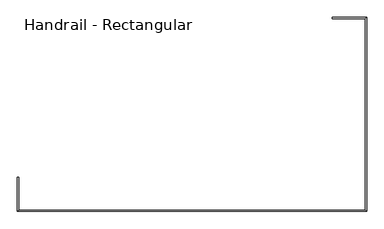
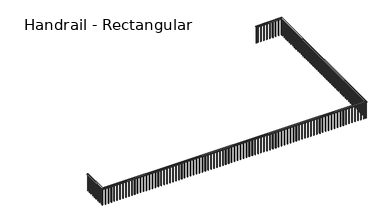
"""IFC4 building model written with IfcOpenShell, lengths in millimetres: railing geometry, Handrail - Rectangular."""

from ifc_helpers import new_model, si_unit, frame, origin, place, context, project, spatial, polyline, outline, extrude, faceted_brep, source, transform, mapped, element, save


def handrail_rectangular_a9532e81(model_context):
    return source(origin(), model_context, "Body", "SolidModel", [
        faceted_brep([(-11342.6589563, -34232.3683133, 3962.4), (-11342.6589563, -34232.3683133, 3911.6), (-11393.4589563, -34232.3683133, 3911.6), (-11393.4589563, -34232.3683133, 3962.4), (-11393.4589563, -35578.5683133, 3962.4), (-11342.6589563, -35527.7683133, 3962.4), (-11393.4589563, -35578.5683133, 3911.6), (-11342.6589563, -35527.7683133, 3911.6), (2322.5410437, -35578.5683133, 3962.4), (2271.7410437, -35527.7683133, 3962.4), (2322.5410437, -35578.5683133, 3911.6), (2271.7410437, -35527.7683133, 3911.6), (2322.5410437, -27958.5683133, 3962.4), (2271.7410437, -28009.3683133, 3962.4), (2322.5410437, -27958.5683133, 3911.6), (2271.7410437, -28009.3683133, 3911.6), (976.3410437, -28009.3683133, 3962.4), (976.3410437, -27958.5683133, 3962.4), (976.3410437, -27958.5683133, 3911.6), (976.3410437, -28009.3683133, 3911.6)], [[[0, 1, 2, 3]], [[0, 3, 4, 5]], [[3, 2, 6, 4]], [[2, 1, 7, 6]], [[1, 0, 5, 7]], [[5, 4, 8, 9]], [[4, 6, 10, 8]], [[6, 7, 11, 10]], [[7, 5, 9, 11]], [[9, 8, 12, 13]], [[8, 10, 14, 12]], [[10, 11, 15, 14]], [[11, 9, 13, 15]], [[16, 17, 18, 19]], [[13, 12, 17, 16]], [[12, 14, 18, 17]], [[14, 15, 19, 18]], [[15, 13, 16, 19]]]),
        extrude(outline(polyline([(1087.4660437, -27993.4933133), (1068.4160437, -27993.4933133), (1068.4160437, -27974.4433133), (1087.4660437, -27974.4433133), (1087.4660437, -27993.4933133)])), frame((0.0, 0.0, 3048.0), z_axis=(0.0, 0.0, 1.0), x_axis=(1.0, 0.0, 0.0)), (0.0, 0.0, 1.0), 863.6),
        extrude(outline(polyline([(1239.8660437, -27993.4933133), (1220.8160437, -27993.4933133), (1220.8160437, -27974.4433133), (1239.8660437, -27974.4433133), (1239.8660437, -27993.4933133)])), frame((0.0, 0.0, 3048.0), z_axis=(0.0, 0.0, 1.0), x_axis=(1.0, 0.0, 0.0)), (0.0, 0.0, 1.0), 863.6),
        extrude(outline(polyline([(1392.2660437, -27993.4933133), (1373.2160437, -27993.4933133), (1373.2160437, -27974.4433133), (1392.2660437, -27974.4433133), (1392.2660437, -27993.4933133)])), frame((0.0, 0.0, 3048.0), z_axis=(0.0, 0.0, 1.0), x_axis=(1.0, 0.0, 0.0)), (0.0, 0.0, 1.0), 863.6),
        extrude(outline(polyline([(1544.6660437, -27993.4933133), (1525.6160437, -27993.4933133), (1525.6160437, -27974.4433133), (1544.6660437, -27974.4433133), (1544.6660437, -27993.4933133)])), frame((0.0, 0.0, 3048.0), z_axis=(0.0, 0.0, 1.0), x_axis=(1.0, 0.0, 0.0)), (0.0, 0.0, 1.0), 863.6),
        extrude(outline(polyline([(1697.0660437, -27993.4933133), (1678.0160437, -27993.4933133), (1678.0160437, -27974.4433133), (1697.0660437, -27974.4433133), (1697.0660437, -27993.4933133)])), frame((0.0, 0.0, 3048.0), z_axis=(0.0, 0.0, 1.0), x_axis=(1.0, 0.0, 0.0)), (0.0, 0.0, 1.0), 863.6),
        extrude(outline(polyline([(1849.4660437, -27993.4933133), (1830.4160437, -27993.4933133), (1830.4160437, -27974.4433133), (1849.4660437, -27974.4433133), (1849.4660437, -27993.4933133)])), frame((0.0, 0.0, 3048.0), z_axis=(0.0, 0.0, 1.0), x_axis=(1.0, 0.0, 0.0)), (0.0, 0.0, 1.0), 863.6),
        extrude(outline(polyline([(2001.8660437, -27993.4933133), (1982.8160437, -27993.4933133), (1982.8160437, -27974.4433133), (2001.8660437, -27974.4433133), (2001.8660437, -27993.4933133)])), frame((0.0, 0.0, 3048.0), z_axis=(0.0, 0.0, 1.0), x_axis=(1.0, 0.0, 0.0)), (0.0, 0.0, 1.0), 863.6),
        extrude(outline(polyline([(2154.2660437, -27993.4933133), (2135.2160437, -27993.4933133), (2135.2160437, -27974.4433133), (2154.2660437, -27974.4433133), (2154.2660437, -27993.4933133)])), frame((0.0, 0.0, 3048.0), z_axis=(0.0, 0.0, 1.0), x_axis=(1.0, 0.0, 0.0)), (0.0, 0.0, 1.0), 863.6),
        extrude(outline(polyline([(2287.6160437, -28095.0933133), (2287.6160437, -28076.0433133), (2306.6660437, -28076.0433133), (2306.6660437, -28095.0933133), (2287.6160437, -28095.0933133)])), frame((0.0, 0.0, 3048.0), z_axis=(0.0, 0.0, 1.0), x_axis=(1.0, 0.0, 0.0)), (0.0, 0.0, 1.0), 863.6),
        extrude(outline(polyline([(2287.6160437, -28247.4933133), (2287.6160437, -28228.4433133), (2306.6660437, -28228.4433133), (2306.6660437, -28247.4933133), (2287.6160437, -28247.4933133)])), frame((0.0, 0.0, 3048.0), z_axis=(0.0, 0.0, 1.0), x_axis=(1.0, 0.0, 0.0)), (0.0, 0.0, 1.0), 863.6),
        extrude(outline(polyline([(2287.6160437, -28399.8933133), (2287.6160437, -28380.8433133), (2306.6660437, -28380.8433133), (2306.6660437, -28399.8933133), (2287.6160437, -28399.8933133)])), frame((0.0, 0.0, 3048.0), z_axis=(0.0, 0.0, 1.0), x_axis=(1.0, 0.0, 0.0)), (0.0, 0.0, 1.0), 863.6),
        extrude(outline(polyline([(2287.6160437, -28552.2933133), (2287.6160437, -28533.2433133), (2306.6660437, -28533.2433133), (2306.6660437, -28552.2933133), (2287.6160437, -28552.2933133)])), frame((0.0, 0.0, 3048.0), z_axis=(0.0, 0.0, 1.0), x_axis=(1.0, 0.0, 0.0)), (0.0, 0.0, 1.0), 863.6),
        extrude(outline(polyline([(2287.6160437, -28704.6933133), (2287.6160437, -28685.6433133), (2306.6660437, -28685.6433133), (2306.6660437, -28704.6933133), (2287.6160437, -28704.6933133)])), frame((0.0, 0.0, 3048.0), z_axis=(0.0, 0.0, 1.0), x_axis=(1.0, 0.0, 0.0)), (0.0, 0.0, 1.0), 863.6),
        extrude(outline(polyline([(2287.6160437, -28857.0933133), (2287.6160437, -28838.0433133), (2306.6660437, -28838.0433133), (2306.6660437, -28857.0933133), (2287.6160437, -28857.0933133)])), frame((0.0, 0.0, 3048.0), z_axis=(0.0, 0.0, 1.0), x_axis=(1.0, 0.0, 0.0)), (0.0, 0.0, 1.0), 863.6),
        extrude(outline(polyline([(2287.6160437, -29009.4933133), (2287.6160437, -28990.4433133), (2306.6660437, -28990.4433133), (2306.6660437, -29009.4933133), (2287.6160437, -29009.4933133)])), frame((0.0, 0.0, 3048.0), z_axis=(0.0, 0.0, 1.0), x_axis=(1.0, 0.0, 0.0)), (0.0, 0.0, 1.0), 863.6),
        extrude(outline(polyline([(2287.6160437, -29161.8933133), (2287.6160437, -29142.8433133), (2306.6660437, -29142.8433133), (2306.6660437, -29161.8933133), (2287.6160437, -29161.8933133)])), frame((0.0, 0.0, 3048.0), z_axis=(0.0, 0.0, 1.0), x_axis=(1.0, 0.0, 0.0)), (0.0, 0.0, 1.0), 863.6),
        extrude(outline(polyline([(2287.6160437, -29314.2933133), (2287.6160437, -29295.2433133), (2306.6660437, -29295.2433133), (2306.6660437, -29314.2933133), (2287.6160437, -29314.2933133)])), frame((0.0, 0.0, 3048.0), z_axis=(0.0, 0.0, 1.0), x_axis=(1.0, 0.0, 0.0)), (0.0, 0.0, 1.0), 863.6),
        extrude(outline(polyline([(2287.6160437, -29466.6933133), (2287.6160437, -29447.6433133), (2306.6660437, -29447.6433133), (2306.6660437, -29466.6933133), (2287.6160437, -29466.6933133)])), frame((0.0, 0.0, 3048.0), z_axis=(0.0, 0.0, 1.0), x_axis=(1.0, 0.0, 0.0)), (0.0, 0.0, 1.0), 863.6),
        extrude(outline(polyline([(2287.6160437, -29619.0933133), (2287.6160437, -29600.0433133), (2306.6660437, -29600.0433133), (2306.6660437, -29619.0933133), (2287.6160437, -29619.0933133)])), frame((0.0, 0.0, 3048.0), z_axis=(0.0, 0.0, 1.0), x_axis=(1.0, 0.0, 0.0)), (0.0, 0.0, 1.0), 863.6),
        extrude(outline(polyline([(2287.6160437, -29771.4933133), (2287.6160437, -29752.4433133), (2306.6660437, -29752.4433133), (2306.6660437, -29771.4933133), (2287.6160437, -29771.4933133)])), frame((0.0, 0.0, 3048.0), z_axis=(0.0, 0.0, 1.0), x_axis=(1.0, 0.0, 0.0)), (0.0, 0.0, 1.0), 863.6),
        extrude(outline(polyline([(2287.6160437, -29923.8933133), (2287.6160437, -29904.8433133), (2306.6660437, -29904.8433133), (2306.6660437, -29923.8933133), (2287.6160437, -29923.8933133)])), frame((0.0, 0.0, 3048.0), z_axis=(0.0, 0.0, 1.0), x_axis=(1.0, 0.0, 0.0)), (0.0, 0.0, 1.0), 863.6),
        extrude(outline(polyline([(2287.6160437, -30076.2933133), (2287.6160437, -30057.2433133), (2306.6660437, -30057.2433133), (2306.6660437, -30076.2933133), (2287.6160437, -30076.2933133)])), frame((0.0, 0.0, 3048.0), z_axis=(0.0, 0.0, 1.0), x_axis=(1.0, 0.0, 0.0)), (0.0, 0.0, 1.0), 863.6),
        extrude(outline(polyline([(2287.6160437, -30228.6933133), (2287.6160437, -30209.6433133), (2306.6660437, -30209.6433133), (2306.6660437, -30228.6933133), (2287.6160437, -30228.6933133)])), frame((0.0, 0.0, 3048.0), z_axis=(0.0, 0.0, 1.0), x_axis=(1.0, 0.0, 0.0)), (0.0, 0.0, 1.0), 863.6),
        extrude(outline(polyline([(2287.6160437, -30381.0933133), (2287.6160437, -30362.0433133), (2306.6660437, -30362.0433133), (2306.6660437, -30381.0933133), (2287.6160437, -30381.0933133)])), frame((0.0, 0.0, 3048.0), z_axis=(0.0, 0.0, 1.0), x_axis=(1.0, 0.0, 0.0)), (0.0, 0.0, 1.0), 863.6),
        extrude(outline(polyline([(2287.6160437, -30533.4933133), (2287.6160437, -30514.4433133), (2306.6660437, -30514.4433133), (2306.6660437, -30533.4933133), (2287.6160437, -30533.4933133)])), frame((0.0, 0.0, 3048.0), z_axis=(0.0, 0.0, 1.0), x_axis=(1.0, 0.0, 0.0)), (0.0, 0.0, 1.0), 863.6),
        extrude(outline(polyline([(2287.6160437, -30685.8933133), (2287.6160437, -30666.8433133), (2306.6660437, -30666.8433133), (2306.6660437, -30685.8933133), (2287.6160437, -30685.8933133)])), frame((0.0, 0.0, 3048.0), z_axis=(0.0, 0.0, 1.0), x_axis=(1.0, 0.0, 0.0)), (0.0, 0.0, 1.0), 863.6),
        extrude(outline(polyline([(2287.6160437, -30838.2933133), (2287.6160437, -30819.2433133), (2306.6660437, -30819.2433133), (2306.6660437, -30838.2933133), (2287.6160437, -30838.2933133)])), frame((0.0, 0.0, 3048.0), z_axis=(0.0, 0.0, 1.0), x_axis=(1.0, 0.0, 0.0)), (0.0, 0.0, 1.0), 863.6),
        extrude(outline(polyline([(2287.6160437, -30990.6933133), (2287.6160437, -30971.6433133), (2306.6660437, -30971.6433133), (2306.6660437, -30990.6933133), (2287.6160437, -30990.6933133)])), frame((0.0, 0.0, 3048.0), z_axis=(0.0, 0.0, 1.0), x_axis=(1.0, 0.0, 0.0)), (0.0, 0.0, 1.0), 863.6),
        extrude(outline(polyline([(2287.6160437, -31143.0933133), (2287.6160437, -31124.0433133), (2306.6660437, -31124.0433133), (2306.6660437, -31143.0933133), (2287.6160437, -31143.0933133)])), frame((0.0, 0.0, 3048.0), z_axis=(0.0, 0.0, 1.0), x_axis=(1.0, 0.0, 0.0)), (0.0, 0.0, 1.0), 863.6),
        extrude(outline(polyline([(2287.6160437, -31295.4933133), (2287.6160437, -31276.4433133), (2306.6660437, -31276.4433133), (2306.6660437, -31295.4933133), (2287.6160437, -31295.4933133)])), frame((0.0, 0.0, 3048.0), z_axis=(0.0, 0.0, 1.0), x_axis=(1.0, 0.0, 0.0)), (0.0, 0.0, 1.0), 863.6),
        extrude(outline(polyline([(2287.6160437, -31447.8933133), (2287.6160437, -31428.8433133), (2306.6660437, -31428.8433133), (2306.6660437, -31447.8933133), (2287.6160437, -31447.8933133)])), frame((0.0, 0.0, 3048.0), z_axis=(0.0, 0.0, 1.0), x_axis=(1.0, 0.0, 0.0)), (0.0, 0.0, 1.0), 863.6),
        extrude(outline(polyline([(2287.6160437, -31600.2933133), (2287.6160437, -31581.2433133), (2306.6660437, -31581.2433133), (2306.6660437, -31600.2933133), (2287.6160437, -31600.2933133)])), frame((0.0, 0.0, 3048.0), z_axis=(0.0, 0.0, 1.0), x_axis=(1.0, 0.0, 0.0)), (0.0, 0.0, 1.0), 863.6),
        extrude(outline(polyline([(2287.6160437, -31752.6933133), (2287.6160437, -31733.6433133), (2306.6660437, -31733.6433133), (2306.6660437, -31752.6933133), (2287.6160437, -31752.6933133)])), frame((0.0, 0.0, 3048.0), z_axis=(0.0, 0.0, 1.0), x_axis=(1.0, 0.0, 0.0)), (0.0, 0.0, 1.0), 863.6),
        extrude(outline(polyline([(2287.6160437, -31905.0933133), (2287.6160437, -31886.0433133), (2306.6660437, -31886.0433133), (2306.6660437, -31905.0933133), (2287.6160437, -31905.0933133)])), frame((0.0, 0.0, 3048.0), z_axis=(0.0, 0.0, 1.0), x_axis=(1.0, 0.0, 0.0)), (0.0, 0.0, 1.0), 863.6),
        extrude(outline(polyline([(2287.6160437, -32057.4933133), (2287.6160437, -32038.4433133), (2306.6660437, -32038.4433133), (2306.6660437, -32057.4933133), (2287.6160437, -32057.4933133)])), frame((0.0, 0.0, 3048.0), z_axis=(0.0, 0.0, 1.0), x_axis=(1.0, 0.0, 0.0)), (0.0, 0.0, 1.0), 863.6),
        extrude(outline(polyline([(2287.6160437, -32209.8933133), (2287.6160437, -32190.8433133), (2306.6660437, -32190.8433133), (2306.6660437, -32209.8933133), (2287.6160437, -32209.8933133)])), frame((0.0, 0.0, 3048.0), z_axis=(0.0, 0.0, 1.0), x_axis=(1.0, 0.0, 0.0)), (0.0, 0.0, 1.0), 863.6),
        extrude(outline(polyline([(2287.6160437, -32362.2933133), (2287.6160437, -32343.2433133), (2306.6660437, -32343.2433133), (2306.6660437, -32362.2933133), (2287.6160437, -32362.2933133)])), frame((0.0, 0.0, 3048.0), z_axis=(0.0, 0.0, 1.0), x_axis=(1.0, 0.0, 0.0)), (0.0, 0.0, 1.0), 863.6),
        extrude(outline(polyline([(2287.6160437, -32514.6933133), (2287.6160437, -32495.6433133), (2306.6660437, -32495.6433133), (2306.6660437, -32514.6933133), (2287.6160437, -32514.6933133)])), frame((0.0, 0.0, 3048.0), z_axis=(0.0, 0.0, 1.0), x_axis=(1.0, 0.0, 0.0)), (0.0, 0.0, 1.0), 863.6),
        extrude(outline(polyline([(2287.6160437, -32667.0933133), (2287.6160437, -32648.0433133), (2306.6660437, -32648.0433133), (2306.6660437, -32667.0933133), (2287.6160437, -32667.0933133)])), frame((0.0, 0.0, 3048.0), z_axis=(0.0, 0.0, 1.0), x_axis=(1.0, 0.0, 0.0)), (0.0, 0.0, 1.0), 863.6),
        extrude(outline(polyline([(2287.6160437, -32819.4933133), (2287.6160437, -32800.4433133), (2306.6660437, -32800.4433133), (2306.6660437, -32819.4933133), (2287.6160437, -32819.4933133)])), frame((0.0, 0.0, 3048.0), z_axis=(0.0, 0.0, 1.0), x_axis=(1.0, 0.0, 0.0)), (0.0, 0.0, 1.0), 863.6),
        extrude(outline(polyline([(2287.6160437, -32971.8933133), (2287.6160437, -32952.8433133), (2306.6660437, -32952.8433133), (2306.6660437, -32971.8933133), (2287.6160437, -32971.8933133)])), frame((0.0, 0.0, 3048.0), z_axis=(0.0, 0.0, 1.0), x_axis=(1.0, 0.0, 0.0)), (0.0, 0.0, 1.0), 863.6),
        extrude(outline(polyline([(2287.6160437, -33124.2933133), (2287.6160437, -33105.2433133), (2306.6660437, -33105.2433133), (2306.6660437, -33124.2933133), (2287.6160437, -33124.2933133)])), frame((0.0, 0.0, 3048.0), z_axis=(0.0, 0.0, 1.0), x_axis=(1.0, 0.0, 0.0)), (0.0, 0.0, 1.0), 863.6),
        extrude(outline(polyline([(2287.6160437, -33276.6933133), (2287.6160437, -33257.6433133), (2306.6660437, -33257.6433133), (2306.6660437, -33276.6933133), (2287.6160437, -33276.6933133)])), frame((0.0, 0.0, 3048.0), z_axis=(0.0, 0.0, 1.0), x_axis=(1.0, 0.0, 0.0)), (0.0, 0.0, 1.0), 863.6),
        extrude(outline(polyline([(2287.6160437, -33429.0933133), (2287.6160437, -33410.0433133), (2306.6660437, -33410.0433133), (2306.6660437, -33429.0933133), (2287.6160437, -33429.0933133)])), frame((0.0, 0.0, 3048.0), z_axis=(0.0, 0.0, 1.0), x_axis=(1.0, 0.0, 0.0)), (0.0, 0.0, 1.0), 863.6),
        extrude(outline(polyline([(2287.6160437, -33581.4933133), (2287.6160437, -33562.4433133), (2306.6660437, -33562.4433133), (2306.6660437, -33581.4933133), (2287.6160437, -33581.4933133)])), frame((0.0, 0.0, 3048.0), z_axis=(0.0, 0.0, 1.0), x_axis=(1.0, 0.0, 0.0)), (0.0, 0.0, 1.0), 863.6),
        extrude(outline(polyline([(2287.6160437, -33733.8933133), (2287.6160437, -33714.8433133), (2306.6660437, -33714.8433133), (2306.6660437, -33733.8933133), (2287.6160437, -33733.8933133)])), frame((0.0, 0.0, 3048.0), z_axis=(0.0, 0.0, 1.0), x_axis=(1.0, 0.0, 0.0)), (0.0, 0.0, 1.0), 863.6),
        extrude(outline(polyline([(2287.6160437, -33886.2933133), (2287.6160437, -33867.2433133), (2306.6660437, -33867.2433133), (2306.6660437, -33886.2933133), (2287.6160437, -33886.2933133)])), frame((0.0, 0.0, 3048.0), z_axis=(0.0, 0.0, 1.0), x_axis=(1.0, 0.0, 0.0)), (0.0, 0.0, 1.0), 863.6),
        extrude(outline(polyline([(2287.6160437, -34038.6933133), (2287.6160437, -34019.6433133), (2306.6660437, -34019.6433133), (2306.6660437, -34038.6933133), (2287.6160437, -34038.6933133)])), frame((0.0, 0.0, 3048.0), z_axis=(0.0, 0.0, 1.0), x_axis=(1.0, 0.0, 0.0)), (0.0, 0.0, 1.0), 863.6),
        extrude(outline(polyline([(2287.6160437, -34191.0933133), (2287.6160437, -34172.0433133), (2306.6660437, -34172.0433133), (2306.6660437, -34191.0933133), (2287.6160437, -34191.0933133)])), frame((0.0, 0.0, 3048.0), z_axis=(0.0, 0.0, 1.0), x_axis=(1.0, 0.0, 0.0)), (0.0, 0.0, 1.0), 863.6),
        extrude(outline(polyline([(2287.6160437, -34343.4933133), (2287.6160437, -34324.4433133), (2306.6660437, -34324.4433133), (2306.6660437, -34343.4933133), (2287.6160437, -34343.4933133)])), frame((0.0, 0.0, 3048.0), z_axis=(0.0, 0.0, 1.0), x_axis=(1.0, 0.0, 0.0)), (0.0, 0.0, 1.0), 863.6),
        extrude(outline(polyline([(2287.6160437, -34495.8933133), (2287.6160437, -34476.8433133), (2306.6660437, -34476.8433133), (2306.6660437, -34495.8933133), (2287.6160437, -34495.8933133)])), frame((0.0, 0.0, 3048.0), z_axis=(0.0, 0.0, 1.0), x_axis=(1.0, 0.0, 0.0)), (0.0, 0.0, 1.0), 863.6),
        extrude(outline(polyline([(2287.6160437, -34648.2933133), (2287.6160437, -34629.2433133), (2306.6660437, -34629.2433133), (2306.6660437, -34648.2933133), (2287.6160437, -34648.2933133)])), frame((0.0, 0.0, 3048.0), z_axis=(0.0, 0.0, 1.0), x_axis=(1.0, 0.0, 0.0)), (0.0, 0.0, 1.0), 863.6),
        extrude(outline(polyline([(2287.6160437, -34800.6933133), (2287.6160437, -34781.6433133), (2306.6660437, -34781.6433133), (2306.6660437, -34800.6933133), (2287.6160437, -34800.6933133)])), frame((0.0, 0.0, 3048.0), z_axis=(0.0, 0.0, 1.0), x_axis=(1.0, 0.0, 0.0)), (0.0, 0.0, 1.0), 863.6),
        extrude(outline(polyline([(2287.6160437, -34953.0933133), (2287.6160437, -34934.0433133), (2306.6660437, -34934.0433133), (2306.6660437, -34953.0933133), (2287.6160437, -34953.0933133)])), frame((0.0, 0.0, 3048.0), z_axis=(0.0, 0.0, 1.0), x_axis=(1.0, 0.0, 0.0)), (0.0, 0.0, 1.0), 863.6),
        extrude(outline(polyline([(2287.6160437, -35105.4933133), (2287.6160437, -35086.4433133), (2306.6660437, -35086.4433133), (2306.6660437, -35105.4933133), (2287.6160437, -35105.4933133)])), frame((0.0, 0.0, 3048.0), z_axis=(0.0, 0.0, 1.0), x_axis=(1.0, 0.0, 0.0)), (0.0, 0.0, 1.0), 863.6),
        extrude(outline(polyline([(2287.6160437, -35257.8933133), (2287.6160437, -35238.8433133), (2306.6660437, -35238.8433133), (2306.6660437, -35257.8933133), (2287.6160437, -35257.8933133)])), frame((0.0, 0.0, 3048.0), z_axis=(0.0, 0.0, 1.0), x_axis=(1.0, 0.0, 0.0)), (0.0, 0.0, 1.0), 863.6),
        extrude(outline(polyline([(2287.6160437, -35410.2933133), (2287.6160437, -35391.2433133), (2306.6660437, -35391.2433133), (2306.6660437, -35410.2933133), (2287.6160437, -35410.2933133)])), frame((0.0, 0.0, 3048.0), z_axis=(0.0, 0.0, 1.0), x_axis=(1.0, 0.0, 0.0)), (0.0, 0.0, 1.0), 863.6),
        extrude(outline(polyline([(2186.0160437, -35543.6433133), (2205.0660437, -35543.6433133), (2205.0660437, -35562.6933133), (2186.0160437, -35562.6933133), (2186.0160437, -35543.6433133)])), frame((0.0, 0.0, 3048.0), z_axis=(0.0, 0.0, 1.0), x_axis=(1.0, 0.0, 0.0)), (0.0, 0.0, 1.0), 863.6),
        extrude(outline(polyline([(2033.6160437, -35543.6433133), (2052.6660437, -35543.6433133), (2052.6660437, -35562.6933133), (2033.6160437, -35562.6933133), (2033.6160437, -35543.6433133)])), frame((0.0, 0.0, 3048.0), z_axis=(0.0, 0.0, 1.0), x_axis=(1.0, 0.0, 0.0)), (0.0, 0.0, 1.0), 863.6),
        extrude(outline(polyline([(1881.2160437, -35543.6433133), (1900.2660437, -35543.6433133), (1900.2660437, -35562.6933133), (1881.2160437, -35562.6933133), (1881.2160437, -35543.6433133)])), frame((0.0, 0.0, 3048.0), z_axis=(0.0, 0.0, 1.0), x_axis=(1.0, 0.0, 0.0)), (0.0, 0.0, 1.0), 863.6),
        extrude(outline(polyline([(1728.8160437, -35543.6433133), (1747.8660437, -35543.6433133), (1747.8660437, -35562.6933133), (1728.8160437, -35562.6933133), (1728.8160437, -35543.6433133)])), frame((0.0, 0.0, 3048.0), z_axis=(0.0, 0.0, 1.0), x_axis=(1.0, 0.0, 0.0)), (0.0, 0.0, 1.0), 863.6),
        extrude(outline(polyline([(1576.4160437, -35543.6433133), (1595.4660437, -35543.6433133), (1595.4660437, -35562.6933133), (1576.4160437, -35562.6933133), (1576.4160437, -35543.6433133)])), frame((0.0, 0.0, 3048.0), z_axis=(0.0, 0.0, 1.0), x_axis=(1.0, 0.0, 0.0)), (0.0, 0.0, 1.0), 863.6),
        extrude(outline(polyline([(1424.0160437, -35543.6433133), (1443.0660437, -35543.6433133), (1443.0660437, -35562.6933133), (1424.0160437, -35562.6933133), (1424.0160437, -35543.6433133)])), frame((0.0, 0.0, 3048.0), z_axis=(0.0, 0.0, 1.0), x_axis=(1.0, 0.0, 0.0)), (0.0, 0.0, 1.0), 863.6),
        extrude(outline(polyline([(1271.6160437, -35543.6433133), (1290.6660437, -35543.6433133), (1290.6660437, -35562.6933133), (1271.6160437, -35562.6933133), (1271.6160437, -35543.6433133)])), frame((0.0, 0.0, 3048.0), z_axis=(0.0, 0.0, 1.0), x_axis=(1.0, 0.0, 0.0)), (0.0, 0.0, 1.0), 863.6),
        extrude(outline(polyline([(1119.2160437, -35543.6433133), (1138.2660437, -35543.6433133), (1138.2660437, -35562.6933133), (1119.2160437, -35562.6933133), (1119.2160437, -35543.6433133)])), frame((0.0, 0.0, 3048.0), z_axis=(0.0, 0.0, 1.0), x_axis=(1.0, 0.0, 0.0)), (0.0, 0.0, 1.0), 863.6),
        extrude(outline(polyline([(966.8160437, -35543.6433133), (985.8660437, -35543.6433133), (985.8660437, -35562.6933133), (966.8160437, -35562.6933133), (966.8160437, -35543.6433133)])), frame((0.0, 0.0, 3048.0), z_axis=(0.0, 0.0, 1.0), x_axis=(1.0, 0.0, 0.0)), (0.0, 0.0, 1.0), 863.6),
        extrude(outline(polyline([(814.4160437, -35543.6433133), (833.4660437, -35543.6433133), (833.4660437, -35562.6933133), (814.4160437, -35562.6933133), (814.4160437, -35543.6433133)])), frame((0.0, 0.0, 3048.0), z_axis=(0.0, 0.0, 1.0), x_axis=(1.0, 0.0, 0.0)), (0.0, 0.0, 1.0), 863.6),
        extrude(outline(polyline([(662.0160437, -35543.6433133), (681.0660437, -35543.6433133), (681.0660437, -35562.6933133), (662.0160437, -35562.6933133), (662.0160437, -35543.6433133)])), frame((0.0, 0.0, 3048.0), z_axis=(0.0, 0.0, 1.0), x_axis=(1.0, 0.0, 0.0)), (0.0, 0.0, 1.0), 863.6),
        extrude(outline(polyline([(509.6160437, -35543.6433133), (528.6660437, -35543.6433133), (528.6660437, -35562.6933133), (509.6160437, -35562.6933133), (509.6160437, -35543.6433133)])), frame((0.0, 0.0, 3048.0), z_axis=(0.0, 0.0, 1.0), x_axis=(1.0, 0.0, 0.0)), (0.0, 0.0, 1.0), 863.6),
        extrude(outline(polyline([(357.2160437, -35543.6433133), (376.2660437, -35543.6433133), (376.2660437, -35562.6933133), (357.2160437, -35562.6933133), (357.2160437, -35543.6433133)])), frame((0.0, 0.0, 3048.0), z_axis=(0.0, 0.0, 1.0), x_axis=(1.0, 0.0, 0.0)), (0.0, 0.0, 1.0), 863.6),
        extrude(outline(polyline([(204.8160437, -35543.6433133), (223.8660437, -35543.6433133), (223.8660437, -35562.6933133), (204.8160437, -35562.6933133), (204.8160437, -35543.6433133)])), frame((0.0, 0.0, 3048.0), z_axis=(0.0, 0.0, 1.0), x_axis=(1.0, 0.0, 0.0)), (0.0, 0.0, 1.0), 863.6),
        extrude(outline(polyline([(52.4160437, -35543.6433133), (71.4660437, -35543.6433133), (71.4660437, -35562.6933133), (52.4160437, -35562.6933133), (52.4160437, -35543.6433133)])), frame((0.0, 0.0, 3048.0), z_axis=(0.0, 0.0, 1.0), x_axis=(1.0, 0.0, 0.0)), (0.0, 0.0, 1.0), 863.6),
        extrude(outline(polyline([(-99.9839563, -35543.6433133), (-80.9339563, -35543.6433133), (-80.9339563, -35562.6933133), (-99.9839563, -35562.6933133), (-99.9839563, -35543.6433133)])), frame((0.0, 0.0, 3048.0), z_axis=(0.0, 0.0, 1.0), x_axis=(1.0, 0.0, 0.0)), (0.0, 0.0, 1.0), 863.6),
        extrude(outline(polyline([(-252.3839563, -35543.6433133), (-233.3339563, -35543.6433133), (-233.3339563, -35562.6933133), (-252.3839563, -35562.6933133), (-252.3839563, -35543.6433133)])), frame((0.0, 0.0, 3048.0), z_axis=(0.0, 0.0, 1.0), x_axis=(1.0, 0.0, 0.0)), (0.0, 0.0, 1.0), 863.6),
        extrude(outline(polyline([(-404.7839563, -35543.6433133), (-385.7339563, -35543.6433133), (-385.7339563, -35562.6933133), (-404.7839563, -35562.6933133), (-404.7839563, -35543.6433133)])), frame((0.0, 0.0, 3048.0), z_axis=(0.0, 0.0, 1.0), x_axis=(1.0, 0.0, 0.0)), (0.0, 0.0, 1.0), 863.6),
        extrude(outline(polyline([(-557.1839563, -35543.6433133), (-538.1339563, -35543.6433133), (-538.1339563, -35562.6933133), (-557.1839563, -35562.6933133), (-557.1839563, -35543.6433133)])), frame((0.0, 0.0, 3048.0), z_axis=(0.0, 0.0, 1.0), x_axis=(1.0, 0.0, 0.0)), (0.0, 0.0, 1.0), 863.6),
        extrude(outline(polyline([(-709.5839563, -35543.6433133), (-690.5339563, -35543.6433133), (-690.5339563, -35562.6933133), (-709.5839563, -35562.6933133), (-709.5839563, -35543.6433133)])), frame((0.0, 0.0, 3048.0), z_axis=(0.0, 0.0, 1.0), x_axis=(1.0, 0.0, 0.0)), (0.0, 0.0, 1.0), 863.6),
        extrude(outline(polyline([(-861.9839563, -35543.6433133), (-842.9339563, -35543.6433133), (-842.9339563, -35562.6933133), (-861.9839563, -35562.6933133), (-861.9839563, -35543.6433133)])), frame((0.0, 0.0, 3048.0), z_axis=(0.0, 0.0, 1.0), x_axis=(1.0, 0.0, 0.0)), (0.0, 0.0, 1.0), 863.6),
        extrude(outline(polyline([(-1014.3839563, -35543.6433133), (-995.3339563, -35543.6433133), (-995.3339563, -35562.6933133), (-1014.3839563, -35562.6933133), (-1014.3839563, -35543.6433133)])), frame((0.0, 0.0, 3048.0), z_axis=(0.0, 0.0, 1.0), x_axis=(1.0, 0.0, 0.0)), (0.0, 0.0, 1.0), 863.6),
        extrude(outline(polyline([(-1166.7839563, -35543.6433133), (-1147.7339563, -35543.6433133), (-1147.7339563, -35562.6933133), (-1166.7839563, -35562.6933133), (-1166.7839563, -35543.6433133)])), frame((0.0, 0.0, 3048.0), z_axis=(0.0, 0.0, 1.0), x_axis=(1.0, 0.0, 0.0)), (0.0, 0.0, 1.0), 863.6),
        extrude(outline(polyline([(-1319.1839563, -35543.6433133), (-1300.1339563, -35543.6433133), (-1300.1339563, -35562.6933133), (-1319.1839563, -35562.6933133), (-1319.1839563, -35543.6433133)])), frame((0.0, 0.0, 3048.0), z_axis=(0.0, 0.0, 1.0), x_axis=(1.0, 0.0, 0.0)), (0.0, 0.0, 1.0), 863.6),
        extrude(outline(polyline([(-1471.5839563, -35543.6433133), (-1452.5339563, -35543.6433133), (-1452.5339563, -35562.6933133), (-1471.5839563, -35562.6933133), (-1471.5839563, -35543.6433133)])), frame((0.0, 0.0, 3048.0), z_axis=(0.0, 0.0, 1.0), x_axis=(1.0, 0.0, 0.0)), (0.0, 0.0, 1.0), 863.6),
        extrude(outline(polyline([(-1623.9839563, -35543.6433133), (-1604.9339563, -35543.6433133), (-1604.9339563, -35562.6933133), (-1623.9839563, -35562.6933133), (-1623.9839563, -35543.6433133)])), frame((0.0, 0.0, 3048.0), z_axis=(0.0, 0.0, 1.0), x_axis=(1.0, 0.0, 0.0)), (0.0, 0.0, 1.0), 863.6),
        extrude(outline(polyline([(-1776.3839563, -35543.6433133), (-1757.3339563, -35543.6433133), (-1757.3339563, -35562.6933133), (-1776.3839563, -35562.6933133), (-1776.3839563, -35543.6433133)])), frame((0.0, 0.0, 3048.0), z_axis=(0.0, 0.0, 1.0), x_axis=(1.0, 0.0, 0.0)), (0.0, 0.0, 1.0), 863.6),
        extrude(outline(polyline([(-1928.7839563, -35543.6433133), (-1909.7339563, -35543.6433133), (-1909.7339563, -35562.6933133), (-1928.7839563, -35562.6933133), (-1928.7839563, -35543.6433133)])), frame((0.0, 0.0, 3048.0), z_axis=(0.0, 0.0, 1.0), x_axis=(1.0, 0.0, 0.0)), (0.0, 0.0, 1.0), 863.6),
        extrude(outline(polyline([(-2081.1839563, -35543.6433133), (-2062.1339563, -35543.6433133), (-2062.1339563, -35562.6933133), (-2081.1839563, -35562.6933133), (-2081.1839563, -35543.6433133)])), frame((0.0, 0.0, 3048.0), z_axis=(0.0, 0.0, 1.0), x_axis=(1.0, 0.0, 0.0)), (0.0, 0.0, 1.0), 863.6),
        extrude(outline(polyline([(-2233.5839563, -35543.6433133), (-2214.5339563, -35543.6433133), (-2214.5339563, -35562.6933133), (-2233.5839563, -35562.6933133), (-2233.5839563, -35543.6433133)])), frame((0.0, 0.0, 3048.0), z_axis=(0.0, 0.0, 1.0), x_axis=(1.0, 0.0, 0.0)), (0.0, 0.0, 1.0), 863.6),
        extrude(outline(polyline([(-2385.9839563, -35543.6433133), (-2366.9339563, -35543.6433133), (-2366.9339563, -35562.6933133), (-2385.9839563, -35562.6933133), (-2385.9839563, -35543.6433133)])), frame((0.0, 0.0, 3048.0), z_axis=(0.0, 0.0, 1.0), x_axis=(1.0, 0.0, 0.0)), (0.0, 0.0, 1.0), 863.6),
        extrude(outline(polyline([(-2538.3839563, -35543.6433133), (-2519.3339563, -35543.6433133), (-2519.3339563, -35562.6933133), (-2538.3839563, -35562.6933133), (-2538.3839563, -35543.6433133)])), frame((0.0, 0.0, 3048.0), z_axis=(0.0, 0.0, 1.0), x_axis=(1.0, 0.0, 0.0)), (0.0, 0.0, 1.0), 863.6),
        extrude(outline(polyline([(-2690.7839563, -35543.6433133), (-2671.7339563, -35543.6433133), (-2671.7339563, -35562.6933133), (-2690.7839563, -35562.6933133), (-2690.7839563, -35543.6433133)])), frame((0.0, 0.0, 3048.0), z_axis=(0.0, 0.0, 1.0), x_axis=(1.0, 0.0, 0.0)), (0.0, 0.0, 1.0), 863.6),
        extrude(outline(polyline([(-2843.1839563, -35543.6433133), (-2824.1339563, -35543.6433133), (-2824.1339563, -35562.6933133), (-2843.1839563, -35562.6933133), (-2843.1839563, -35543.6433133)])), frame((0.0, 0.0, 3048.0), z_axis=(0.0, 0.0, 1.0), x_axis=(1.0, 0.0, 0.0)), (0.0, 0.0, 1.0), 863.6),
        extrude(outline(polyline([(-2995.5839563, -35543.6433133), (-2976.5339563, -35543.6433133), (-2976.5339563, -35562.6933133), (-2995.5839563, -35562.6933133), (-2995.5839563, -35543.6433133)])), frame((0.0, 0.0, 3048.0), z_axis=(0.0, 0.0, 1.0), x_axis=(1.0, 0.0, 0.0)), (0.0, 0.0, 1.0), 863.6),
        extrude(outline(polyline([(-3147.9839563, -35543.6433133), (-3128.9339563, -35543.6433133), (-3128.9339563, -35562.6933133), (-3147.9839563, -35562.6933133), (-3147.9839563, -35543.6433133)])), frame((0.0, 0.0, 3048.0), z_axis=(0.0, 0.0, 1.0), x_axis=(1.0, 0.0, 0.0)), (0.0, 0.0, 1.0), 863.6),
        extrude(outline(polyline([(-3300.3839563, -35543.6433133), (-3281.3339563, -35543.6433133), (-3281.3339563, -35562.6933133), (-3300.3839563, -35562.6933133), (-3300.3839563, -35543.6433133)])), frame((0.0, 0.0, 3048.0), z_axis=(0.0, 0.0, 1.0), x_axis=(1.0, 0.0, 0.0)), (0.0, 0.0, 1.0), 863.6),
        extrude(outline(polyline([(-3452.7839563, -35543.6433133), (-3433.7339563, -35543.6433133), (-3433.7339563, -35562.6933133), (-3452.7839563, -35562.6933133), (-3452.7839563, -35543.6433133)])), frame((0.0, 0.0, 3048.0), z_axis=(0.0, 0.0, 1.0), x_axis=(1.0, 0.0, 0.0)), (0.0, 0.0, 1.0), 863.6),
        extrude(outline(polyline([(-3605.1839563, -35543.6433133), (-3586.1339563, -35543.6433133), (-3586.1339563, -35562.6933133), (-3605.1839563, -35562.6933133), (-3605.1839563, -35543.6433133)])), frame((0.0, 0.0, 3048.0), z_axis=(0.0, 0.0, 1.0), x_axis=(1.0, 0.0, 0.0)), (0.0, 0.0, 1.0), 863.6),
        extrude(outline(polyline([(-3757.5839563, -35543.6433133), (-3738.5339563, -35543.6433133), (-3738.5339563, -35562.6933133), (-3757.5839563, -35562.6933133), (-3757.5839563, -35543.6433133)])), frame((0.0, 0.0, 3048.0), z_axis=(0.0, 0.0, 1.0), x_axis=(1.0, 0.0, 0.0)), (0.0, 0.0, 1.0), 863.6),
        extrude(outline(polyline([(-3909.9839563, -35543.6433133), (-3890.9339563, -35543.6433133), (-3890.9339563, -35562.6933133), (-3909.9839563, -35562.6933133), (-3909.9839563, -35543.6433133)])), frame((0.0, 0.0, 3048.0), z_axis=(0.0, 0.0, 1.0), x_axis=(1.0, 0.0, 0.0)), (0.0, 0.0, 1.0), 863.6),
        extrude(outline(polyline([(-4062.3839563, -35543.6433133), (-4043.3339563, -35543.6433133), (-4043.3339563, -35562.6933133), (-4062.3839563, -35562.6933133), (-4062.3839563, -35543.6433133)])), frame((0.0, 0.0, 3048.0), z_axis=(0.0, 0.0, 1.0), x_axis=(1.0, 0.0, 0.0)), (0.0, 0.0, 1.0), 863.6),
        extrude(outline(polyline([(-4214.7839563, -35543.6433133), (-4195.7339563, -35543.6433133), (-4195.7339563, -35562.6933133), (-4214.7839563, -35562.6933133), (-4214.7839563, -35543.6433133)])), frame((0.0, 0.0, 3048.0), z_axis=(0.0, 0.0, 1.0), x_axis=(1.0, 0.0, 0.0)), (0.0, 0.0, 1.0), 863.6),
        extrude(outline(polyline([(-4367.1839563, -35543.6433133), (-4348.1339563, -35543.6433133), (-4348.1339563, -35562.6933133), (-4367.1839563, -35562.6933133), (-4367.1839563, -35543.6433133)])), frame((0.0, 0.0, 3048.0), z_axis=(0.0, 0.0, 1.0), x_axis=(1.0, 0.0, 0.0)), (0.0, 0.0, 1.0), 863.6),
        extrude(outline(polyline([(-4519.5839563, -35543.6433133), (-4500.5339563, -35543.6433133), (-4500.5339563, -35562.6933133), (-4519.5839563, -35562.6933133), (-4519.5839563, -35543.6433133)])), frame((0.0, 0.0, 3048.0), z_axis=(0.0, 0.0, 1.0), x_axis=(1.0, 0.0, 0.0)), (0.0, 0.0, 1.0), 863.6),
        extrude(outline(polyline([(-4671.9839563, -35543.6433133), (-4652.9339563, -35543.6433133), (-4652.9339563, -35562.6933133), (-4671.9839563, -35562.6933133), (-4671.9839563, -35543.6433133)])), frame((0.0, 0.0, 3048.0), z_axis=(0.0, 0.0, 1.0), x_axis=(1.0, 0.0, 0.0)), (0.0, 0.0, 1.0), 863.6),
        extrude(outline(polyline([(-4824.3839563, -35543.6433133), (-4805.3339563, -35543.6433133), (-4805.3339563, -35562.6933133), (-4824.3839563, -35562.6933133), (-4824.3839563, -35543.6433133)])), frame((0.0, 0.0, 3048.0), z_axis=(0.0, 0.0, 1.0), x_axis=(1.0, 0.0, 0.0)), (0.0, 0.0, 1.0), 863.6),
        extrude(outline(polyline([(-4976.7839563, -35543.6433133), (-4957.7339563, -35543.6433133), (-4957.7339563, -35562.6933133), (-4976.7839563, -35562.6933133), (-4976.7839563, -35543.6433133)])), frame((0.0, 0.0, 3048.0), z_axis=(0.0, 0.0, 1.0), x_axis=(1.0, 0.0, 0.0)), (0.0, 0.0, 1.0), 863.6),
        extrude(outline(polyline([(-5129.1839563, -35543.6433133), (-5110.1339563, -35543.6433133), (-5110.1339563, -35562.6933133), (-5129.1839563, -35562.6933133), (-5129.1839563, -35543.6433133)])), frame((0.0, 0.0, 3048.0), z_axis=(0.0, 0.0, 1.0), x_axis=(1.0, 0.0, 0.0)), (0.0, 0.0, 1.0), 863.6),
        extrude(outline(polyline([(-5281.5839563, -35543.6433133), (-5262.5339563, -35543.6433133), (-5262.5339563, -35562.6933133), (-5281.5839563, -35562.6933133), (-5281.5839563, -35543.6433133)])), frame((0.0, 0.0, 3048.0), z_axis=(0.0, 0.0, 1.0), x_axis=(1.0, 0.0, 0.0)), (0.0, 0.0, 1.0), 863.6),
        extrude(outline(polyline([(-5433.9839563, -35543.6433133), (-5414.9339563, -35543.6433133), (-5414.9339563, -35562.6933133), (-5433.9839563, -35562.6933133), (-5433.9839563, -35543.6433133)])), frame((0.0, 0.0, 3048.0), z_axis=(0.0, 0.0, 1.0), x_axis=(1.0, 0.0, 0.0)), (0.0, 0.0, 1.0), 863.6),
        extrude(outline(polyline([(-5586.3839563, -35543.6433133), (-5567.3339563, -35543.6433133), (-5567.3339563, -35562.6933133), (-5586.3839563, -35562.6933133), (-5586.3839563, -35543.6433133)])), frame((0.0, 0.0, 3048.0), z_axis=(0.0, 0.0, 1.0), x_axis=(1.0, 0.0, 0.0)), (0.0, 0.0, 1.0), 863.6),
        extrude(outline(polyline([(-5738.7839563, -35543.6433133), (-5719.7339563, -35543.6433133), (-5719.7339563, -35562.6933133), (-5738.7839563, -35562.6933133), (-5738.7839563, -35543.6433133)])), frame((0.0, 0.0, 3048.0), z_axis=(0.0, 0.0, 1.0), x_axis=(1.0, 0.0, 0.0)), (0.0, 0.0, 1.0), 863.6),
        extrude(outline(polyline([(-5891.1839563, -35543.6433133), (-5872.1339563, -35543.6433133), (-5872.1339563, -35562.6933133), (-5891.1839563, -35562.6933133), (-5891.1839563, -35543.6433133)])), frame((0.0, 0.0, 3048.0), z_axis=(0.0, 0.0, 1.0), x_axis=(1.0, 0.0, 0.0)), (0.0, 0.0, 1.0), 863.6),
        extrude(outline(polyline([(-6043.5839563, -35543.6433133), (-6024.5339563, -35543.6433133), (-6024.5339563, -35562.6933133), (-6043.5839563, -35562.6933133), (-6043.5839563, -35543.6433133)])), frame((0.0, 0.0, 3048.0), z_axis=(0.0, 0.0, 1.0), x_axis=(1.0, 0.0, 0.0)), (0.0, 0.0, 1.0), 863.6),
        extrude(outline(polyline([(-6195.9839563, -35543.6433133), (-6176.9339563, -35543.6433133), (-6176.9339563, -35562.6933133), (-6195.9839563, -35562.6933133), (-6195.9839563, -35543.6433133)])), frame((0.0, 0.0, 3048.0), z_axis=(0.0, 0.0, 1.0), x_axis=(1.0, 0.0, 0.0)), (0.0, 0.0, 1.0), 863.6),
        extrude(outline(polyline([(-6348.3839563, -35543.6433133), (-6329.3339563, -35543.6433133), (-6329.3339563, -35562.6933133), (-6348.3839563, -35562.6933133), (-6348.3839563, -35543.6433133)])), frame((0.0, 0.0, 3048.0), z_axis=(0.0, 0.0, 1.0), x_axis=(1.0, 0.0, 0.0)), (0.0, 0.0, 1.0), 863.6),
        extrude(outline(polyline([(-6500.7839563, -35543.6433133), (-6481.7339563, -35543.6433133), (-6481.7339563, -35562.6933133), (-6500.7839563, -35562.6933133), (-6500.7839563, -35543.6433133)])), frame((0.0, 0.0, 3048.0), z_axis=(0.0, 0.0, 1.0), x_axis=(1.0, 0.0, 0.0)), (0.0, 0.0, 1.0), 863.6),
        extrude(outline(polyline([(-6653.1839563, -35543.6433133), (-6634.1339563, -35543.6433133), (-6634.1339563, -35562.6933133), (-6653.1839563, -35562.6933133), (-6653.1839563, -35543.6433133)])), frame((0.0, 0.0, 3048.0), z_axis=(0.0, 0.0, 1.0), x_axis=(1.0, 0.0, 0.0)), (0.0, 0.0, 1.0), 863.6),
        extrude(outline(polyline([(-6805.5839563, -35543.6433133), (-6786.5339563, -35543.6433133), (-6786.5339563, -35562.6933133), (-6805.5839563, -35562.6933133), (-6805.5839563, -35543.6433133)])), frame((0.0, 0.0, 3048.0), z_axis=(0.0, 0.0, 1.0), x_axis=(1.0, 0.0, 0.0)), (0.0, 0.0, 1.0), 863.6),
        extrude(outline(polyline([(-6957.9839563, -35543.6433133), (-6938.9339563, -35543.6433133), (-6938.9339563, -35562.6933133), (-6957.9839563, -35562.6933133), (-6957.9839563, -35543.6433133)])), frame((0.0, 0.0, 3048.0), z_axis=(0.0, 0.0, 1.0), x_axis=(1.0, 0.0, 0.0)), (0.0, 0.0, 1.0), 863.6),
        extrude(outline(polyline([(-7110.3839563, -35543.6433133), (-7091.3339563, -35543.6433133), (-7091.3339563, -35562.6933133), (-7110.3839563, -35562.6933133), (-7110.3839563, -35543.6433133)])), frame((0.0, 0.0, 3048.0), z_axis=(0.0, 0.0, 1.0), x_axis=(1.0, 0.0, 0.0)), (0.0, 0.0, 1.0), 863.6),
        extrude(outline(polyline([(-7262.7839563, -35543.6433133), (-7243.7339563, -35543.6433133), (-7243.7339563, -35562.6933133), (-7262.7839563, -35562.6933133), (-7262.7839563, -35543.6433133)])), frame((0.0, 0.0, 3048.0), z_axis=(0.0, 0.0, 1.0), x_axis=(1.0, 0.0, 0.0)), (0.0, 0.0, 1.0), 863.6),
        extrude(outline(polyline([(-7415.1839563, -35543.6433133), (-7396.1339563, -35543.6433133), (-7396.1339563, -35562.6933133), (-7415.1839563, -35562.6933133), (-7415.1839563, -35543.6433133)])), frame((0.0, 0.0, 3048.0), z_axis=(0.0, 0.0, 1.0), x_axis=(1.0, 0.0, 0.0)), (0.0, 0.0, 1.0), 863.6),
        extrude(outline(polyline([(-7567.5839563, -35543.6433133), (-7548.5339563, -35543.6433133), (-7548.5339563, -35562.6933133), (-7567.5839563, -35562.6933133), (-7567.5839563, -35543.6433133)])), frame((0.0, 0.0, 3048.0), z_axis=(0.0, 0.0, 1.0), x_axis=(1.0, 0.0, 0.0)), (0.0, 0.0, 1.0), 863.6),
        extrude(outline(polyline([(-7719.9839563, -35543.6433133), (-7700.9339563, -35543.6433133), (-7700.9339563, -35562.6933133), (-7719.9839563, -35562.6933133), (-7719.9839563, -35543.6433133)])), frame((0.0, 0.0, 3048.0), z_axis=(0.0, 0.0, 1.0), x_axis=(1.0, 0.0, 0.0)), (0.0, 0.0, 1.0), 863.6),
        extrude(outline(polyline([(-7872.3839563, -35543.6433133), (-7853.3339563, -35543.6433133), (-7853.3339563, -35562.6933133), (-7872.3839563, -35562.6933133), (-7872.3839563, -35543.6433133)])), frame((0.0, 0.0, 3048.0), z_axis=(0.0, 0.0, 1.0), x_axis=(1.0, 0.0, 0.0)), (0.0, 0.0, 1.0), 863.6),
        extrude(outline(polyline([(-8024.7839563, -35543.6433133), (-8005.7339563, -35543.6433133), (-8005.7339563, -35562.6933133), (-8024.7839563, -35562.6933133), (-8024.7839563, -35543.6433133)])), frame((0.0, 0.0, 3048.0), z_axis=(0.0, 0.0, 1.0), x_axis=(1.0, 0.0, 0.0)), (0.0, 0.0, 1.0), 863.6),
        extrude(outline(polyline([(-8177.1839563, -35543.6433133), (-8158.1339563, -35543.6433133), (-8158.1339563, -35562.6933133), (-8177.1839563, -35562.6933133), (-8177.1839563, -35543.6433133)])), frame((0.0, 0.0, 3048.0), z_axis=(0.0, 0.0, 1.0), x_axis=(1.0, 0.0, 0.0)), (0.0, 0.0, 1.0), 863.6),
        extrude(outline(polyline([(-8329.5839563, -35543.6433133), (-8310.5339563, -35543.6433133), (-8310.5339563, -35562.6933133), (-8329.5839563, -35562.6933133), (-8329.5839563, -35543.6433133)])), frame((0.0, 0.0, 3048.0), z_axis=(0.0, 0.0, 1.0), x_axis=(1.0, 0.0, 0.0)), (0.0, 0.0, 1.0), 863.6),
        extrude(outline(polyline([(-8481.9839563, -35543.6433133), (-8462.9339563, -35543.6433133), (-8462.9339563, -35562.6933133), (-8481.9839563, -35562.6933133), (-8481.9839563, -35543.6433133)])), frame((0.0, 0.0, 3048.0), z_axis=(0.0, 0.0, 1.0), x_axis=(1.0, 0.0, 0.0)), (0.0, 0.0, 1.0), 863.6),
        extrude(outline(polyline([(-8634.3839563, -35543.6433133), (-8615.3339563, -35543.6433133), (-8615.3339563, -35562.6933133), (-8634.3839563, -35562.6933133), (-8634.3839563, -35543.6433133)])), frame((0.0, 0.0, 3048.0), z_axis=(0.0, 0.0, 1.0), x_axis=(1.0, 0.0, 0.0)), (0.0, 0.0, 1.0), 863.6),
        extrude(outline(polyline([(-8786.7839563, -35543.6433133), (-8767.7339563, -35543.6433133), (-8767.7339563, -35562.6933133), (-8786.7839563, -35562.6933133), (-8786.7839563, -35543.6433133)])), frame((0.0, 0.0, 3048.0), z_axis=(0.0, 0.0, 1.0), x_axis=(1.0, 0.0, 0.0)), (0.0, 0.0, 1.0), 863.6),
        extrude(outline(polyline([(-8939.1839563, -35543.6433133), (-8920.1339563, -35543.6433133), (-8920.1339563, -35562.6933133), (-8939.1839563, -35562.6933133), (-8939.1839563, -35543.6433133)])), frame((0.0, 0.0, 3048.0), z_axis=(0.0, 0.0, 1.0), x_axis=(1.0, 0.0, 0.0)), (0.0, 0.0, 1.0), 863.6),
        extrude(outline(polyline([(-9091.5839563, -35543.6433133), (-9072.5339563, -35543.6433133), (-9072.5339563, -35562.6933133), (-9091.5839563, -35562.6933133), (-9091.5839563, -35543.6433133)])), frame((0.0, 0.0, 3048.0), z_axis=(0.0, 0.0, 1.0), x_axis=(1.0, 0.0, 0.0)), (0.0, 0.0, 1.0), 863.6),
        extrude(outline(polyline([(-9243.9839563, -35543.6433133), (-9224.9339563, -35543.6433133), (-9224.9339563, -35562.6933133), (-9243.9839563, -35562.6933133), (-9243.9839563, -35543.6433133)])), frame((0.0, 0.0, 3048.0), z_axis=(0.0, 0.0, 1.0), x_axis=(1.0, 0.0, 0.0)), (0.0, 0.0, 1.0), 863.6),
        extrude(outline(polyline([(-9396.3839563, -35543.6433133), (-9377.3339563, -35543.6433133), (-9377.3339563, -35562.6933133), (-9396.3839563, -35562.6933133), (-9396.3839563, -35543.6433133)])), frame((0.0, 0.0, 3048.0), z_axis=(0.0, 0.0, 1.0), x_axis=(1.0, 0.0, 0.0)), (0.0, 0.0, 1.0), 863.6),
        extrude(outline(polyline([(-9548.7839563, -35543.6433133), (-9529.7339563, -35543.6433133), (-9529.7339563, -35562.6933133), (-9548.7839563, -35562.6933133), (-9548.7839563, -35543.6433133)])), frame((0.0, 0.0, 3048.0), z_axis=(0.0, 0.0, 1.0), x_axis=(1.0, 0.0, 0.0)), (0.0, 0.0, 1.0), 863.6),
        extrude(outline(polyline([(-9701.1839563, -35543.6433133), (-9682.1339563, -35543.6433133), (-9682.1339563, -35562.6933133), (-9701.1839563, -35562.6933133), (-9701.1839563, -35543.6433133)])), frame((0.0, 0.0, 3048.0), z_axis=(0.0, 0.0, 1.0), x_axis=(1.0, 0.0, 0.0)), (0.0, 0.0, 1.0), 863.6),
        extrude(outline(polyline([(-9853.5839563, -35543.6433133), (-9834.5339563, -35543.6433133), (-9834.5339563, -35562.6933133), (-9853.5839563, -35562.6933133), (-9853.5839563, -35543.6433133)])), frame((0.0, 0.0, 3048.0), z_axis=(0.0, 0.0, 1.0), x_axis=(1.0, 0.0, 0.0)), (0.0, 0.0, 1.0), 863.6),
        extrude(outline(polyline([(-10005.9839563, -35543.6433133), (-9986.9339563, -35543.6433133), (-9986.9339563, -35562.6933133), (-10005.9839563, -35562.6933133), (-10005.9839563, -35543.6433133)])), frame((0.0, 0.0, 3048.0), z_axis=(0.0, 0.0, 1.0), x_axis=(1.0, 0.0, 0.0)), (0.0, 0.0, 1.0), 863.6),
        extrude(outline(polyline([(-10158.3839563, -35543.6433133), (-10139.3339563, -35543.6433133), (-10139.3339563, -35562.6933133), (-10158.3839563, -35562.6933133), (-10158.3839563, -35543.6433133)])), frame((0.0, 0.0, 3048.0), z_axis=(0.0, 0.0, 1.0), x_axis=(1.0, 0.0, 0.0)), (0.0, 0.0, 1.0), 863.6),
        extrude(outline(polyline([(-10310.7839563, -35543.6433133), (-10291.7339563, -35543.6433133), (-10291.7339563, -35562.6933133), (-10310.7839563, -35562.6933133), (-10310.7839563, -35543.6433133)])), frame((0.0, 0.0, 3048.0), z_axis=(0.0, 0.0, 1.0), x_axis=(1.0, 0.0, 0.0)), (0.0, 0.0, 1.0), 863.6),
        extrude(outline(polyline([(-10463.1839563, -35543.6433133), (-10444.1339563, -35543.6433133), (-10444.1339563, -35562.6933133), (-10463.1839563, -35562.6933133), (-10463.1839563, -35543.6433133)])), frame((0.0, 0.0, 3048.0), z_axis=(0.0, 0.0, 1.0), x_axis=(1.0, 0.0, 0.0)), (0.0, 0.0, 1.0), 863.6),
        extrude(outline(polyline([(-10615.5839563, -35543.6433133), (-10596.5339563, -35543.6433133), (-10596.5339563, -35562.6933133), (-10615.5839563, -35562.6933133), (-10615.5839563, -35543.6433133)])), frame((0.0, 0.0, 3048.0), z_axis=(0.0, 0.0, 1.0), x_axis=(1.0, 0.0, 0.0)), (0.0, 0.0, 1.0), 863.6),
        extrude(outline(polyline([(-10767.9839563, -35543.6433133), (-10748.9339563, -35543.6433133), (-10748.9339563, -35562.6933133), (-10767.9839563, -35562.6933133), (-10767.9839563, -35543.6433133)])), frame((0.0, 0.0, 3048.0), z_axis=(0.0, 0.0, 1.0), x_axis=(1.0, 0.0, 0.0)), (0.0, 0.0, 1.0), 863.6),
        extrude(outline(polyline([(-10920.3839563, -35543.6433133), (-10901.3339563, -35543.6433133), (-10901.3339563, -35562.6933133), (-10920.3839563, -35562.6933133), (-10920.3839563, -35543.6433133)])), frame((0.0, 0.0, 3048.0), z_axis=(0.0, 0.0, 1.0), x_axis=(1.0, 0.0, 0.0)), (0.0, 0.0, 1.0), 863.6),
        extrude(outline(polyline([(-11072.7839563, -35543.6433133), (-11053.7339563, -35543.6433133), (-11053.7339563, -35562.6933133), (-11072.7839563, -35562.6933133), (-11072.7839563, -35543.6433133)])), frame((0.0, 0.0, 3048.0), z_axis=(0.0, 0.0, 1.0), x_axis=(1.0, 0.0, 0.0)), (0.0, 0.0, 1.0), 863.6),
        extrude(outline(polyline([(-11225.1839563, -35543.6433133), (-11206.1339563, -35543.6433133), (-11206.1339563, -35562.6933133), (-11225.1839563, -35562.6933133), (-11225.1839563, -35543.6433133)])), frame((0.0, 0.0, 3048.0), z_axis=(0.0, 0.0, 1.0), x_axis=(1.0, 0.0, 0.0)), (0.0, 0.0, 1.0), 863.6),
        extrude(outline(polyline([(-11358.5339563, -35442.0433133), (-11358.5339563, -35461.0933133), (-11377.5839563, -35461.0933133), (-11377.5839563, -35442.0433133), (-11358.5339563, -35442.0433133)])), frame((0.0, 0.0, 3048.0), z_axis=(0.0, 0.0, 1.0), x_axis=(1.0, 0.0, 0.0)), (0.0, 0.0, 1.0), 863.6),
        extrude(outline(polyline([(-11358.5339563, -35289.6433133), (-11358.5339563, -35308.6933133), (-11377.5839563, -35308.6933133), (-11377.5839563, -35289.6433133), (-11358.5339563, -35289.6433133)])), frame((0.0, 0.0, 3048.0), z_axis=(0.0, 0.0, 1.0), x_axis=(1.0, 0.0, 0.0)), (0.0, 0.0, 1.0), 863.6),
        extrude(outline(polyline([(-11358.5339563, -35137.2433133), (-11358.5339563, -35156.2933133), (-11377.5839563, -35156.2933133), (-11377.5839563, -35137.2433133), (-11358.5339563, -35137.2433133)])), frame((0.0, 0.0, 3048.0), z_axis=(0.0, 0.0, 1.0), x_axis=(1.0, 0.0, 0.0)), (0.0, 0.0, 1.0), 863.6),
        extrude(outline(polyline([(-11358.5339563, -34984.8433133), (-11358.5339563, -35003.8933133), (-11377.5839563, -35003.8933133), (-11377.5839563, -34984.8433133), (-11358.5339563, -34984.8433133)])), frame((0.0, 0.0, 3048.0), z_axis=(0.0, 0.0, 1.0), x_axis=(1.0, 0.0, 0.0)), (0.0, 0.0, 1.0), 863.6),
        extrude(outline(polyline([(-11358.5339563, -34832.4433133), (-11358.5339563, -34851.4933133), (-11377.5839563, -34851.4933133), (-11377.5839563, -34832.4433133), (-11358.5339563, -34832.4433133)])), frame((0.0, 0.0, 3048.0), z_axis=(0.0, 0.0, 1.0), x_axis=(1.0, 0.0, 0.0)), (0.0, 0.0, 1.0), 863.6),
        extrude(outline(polyline([(-11358.5339563, -34680.0433133), (-11358.5339563, -34699.0933133), (-11377.5839563, -34699.0933133), (-11377.5839563, -34680.0433133), (-11358.5339563, -34680.0433133)])), frame((0.0, 0.0, 3048.0), z_axis=(0.0, 0.0, 1.0), x_axis=(1.0, 0.0, 0.0)), (0.0, 0.0, 1.0), 863.6),
        extrude(outline(polyline([(-11358.5339563, -34527.6433133), (-11358.5339563, -34546.6933133), (-11377.5839563, -34546.6933133), (-11377.5839563, -34527.6433133), (-11358.5339563, -34527.6433133)])), frame((0.0, 0.0, 3048.0), z_axis=(0.0, 0.0, 1.0), x_axis=(1.0, 0.0, 0.0)), (0.0, 0.0, 1.0), 863.6),
        extrude(outline(polyline([(-11358.5339563, -34375.2433133), (-11358.5339563, -34394.2933133), (-11377.5839563, -34394.2933133), (-11377.5839563, -34375.2433133), (-11358.5339563, -34375.2433133)])), frame((0.0, 0.0, 3048.0), z_axis=(0.0, 0.0, 1.0), x_axis=(1.0, 0.0, 0.0)), (0.0, 0.0, 1.0), 863.6),
        extrude(outline(polyline([(2287.6160437, -27993.4933133), (2287.6160437, -27974.4433133), (2306.6660437, -27974.4433133), (2306.6660437, -27993.4933133), (2287.6160437, -27993.4933133)])), frame((0.0, 0.0, 3048.0), z_axis=(0.0, 0.0, 1.0), x_axis=(1.0, 0.0, 0.0)), (0.0, 0.0, 1.0), 863.6),
        extrude(outline(polyline([(2287.6160437, -35543.6433133), (2306.6660437, -35543.6433133), (2306.6660437, -35562.6933133), (2287.6160437, -35562.6933133), (2287.6160437, -35543.6433133)])), frame((0.0, 0.0, 3048.0), z_axis=(0.0, 0.0, 1.0), x_axis=(1.0, 0.0, 0.0)), (0.0, 0.0, 1.0), 863.6),
        extrude(outline(polyline([(-11358.5339563, -35543.6433133), (-11358.5339563, -35562.6933133), (-11377.5839563, -35562.6933133), (-11377.5839563, -35543.6433133), (-11358.5339563, -35543.6433133)])), frame((0.0, 0.0, 3048.0), z_axis=(0.0, 0.0, 1.0), x_axis=(1.0, 0.0, 0.0)), (0.0, 0.0, 1.0), 863.6),
        extrude(outline(polyline([(995.3910437, -27993.4933133), (976.3410437, -27993.4933133), (976.3410437, -27974.4433133), (995.3910437, -27974.4433133), (995.3910437, -27993.4933133)])), frame((0.0, 0.0, 3048.0), z_axis=(0.0, 0.0, 1.0), x_axis=(1.0, 0.0, 0.0)), (0.0, 0.0, 1.0), 863.6),
        extrude(outline(polyline([(-11358.5339563, -34232.3683133), (-11358.5339563, -34251.4183133), (-11377.5839563, -34251.4183133), (-11377.5839563, -34232.3683133), (-11358.5339563, -34232.3683133)])), frame((0.0, 0.0, 3048.0), z_axis=(0.0, 0.0, 1.0), x_axis=(1.0, 0.0, 0.0)), (0.0, 0.0, 1.0), 863.6),
    ])


if __name__ == "__main__":
    model = new_model("IFC4")
    model_context = context("Model", 3, world=origin())
    ifc_project = project(units=[si_unit("LENGTHUNIT", "METRE", prefix="MILLI")], contexts=[model_context])
    site = spatial("IfcSite", under=ifc_project)
    building = spatial("IfcBuilding", under=site)
    placement = place(None, origin())
    handrail_rectangular_shape = handrail_rectangular_a9532e81(model_context)
    element("IfcRailing", 1, ObjectType="Handrail - Rectangular", at=placement, inside=building, context=model_context, shape_type="MappedRepresentation", body=[
        mapped(handrail_rectangular_shape, transform((0.0, 0.0, 0.0), x_axis=(1.0, 0.0, 0.0), y_axis=(0.0, 1.0, 0.0), z_axis=(0.0, 0.0, 1.0))),
    ])
    save(model, "model.ifc")
